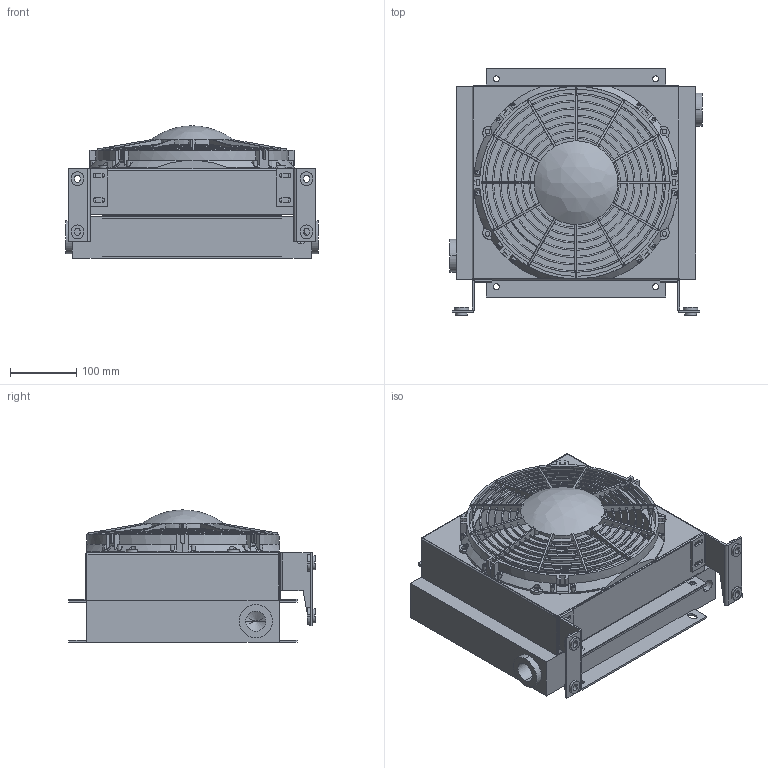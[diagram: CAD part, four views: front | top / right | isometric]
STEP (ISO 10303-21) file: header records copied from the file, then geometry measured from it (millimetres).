
FILE_DESCRIPTION (( 'STEP AP214' ), '1' );
FILE_NAME ('WHE 2024 12V-24V.STEP', '2016-01-29T07:40:50', ( '' ), ( '' ), 'SwSTEP 2.0', 'SolidWorks 2016', '' );
FILE_SCHEMA (( 'AUTOMOTIVE_DESIGN' ));
Length unit declared in the file: millimetre
Products named in the file (7): WHE2024 FAN SACI 12V-24V_SAC 2; WHE 2024 12V-24V; 11''''''''ince; AYAK CONTASI; MIROR AYAK; SOGUTUCU GOVDE; WHE2024 AYAK 24V-12V
Assembly tree (9 placements, depth 2):
  WHE 2024 12V-24V
    SOGUTUCU GOVDE
    WHE2024 FAN SACI 12V-24V_SAC 2
    MIROR AYAK
    WHE2024 AYAK 24V-12V
    11''''''''ince
    AYAK CONTASI  x4
Bounding box: 380 x 371.7 x 199.22 mm (x, y, z)
Volume: 7151509.7 mm3; surface area: 855423 mm2
Topology: 9 solids, 9 shells, 1222 faces, 3864 edges, 2642 vertices
Faces by surface type: cylinder 512, plane 469, torus 192, cone 46, bspline 3
Entity records: 69227 total; most frequent: CARTESIAN_POINT 25519, ORIENTED_EDGE 7330, DIRECTION 5181, EDGE_CURVE 3665, VERTEX_POINT 2515, AXIS2_PLACEMENT_3D 1859, B_SPLINE_CURVE_WITH_KNOTS 1499, LINE 1463
